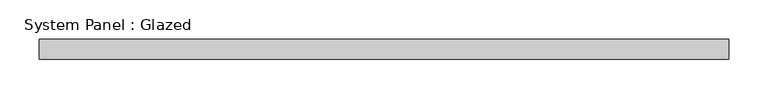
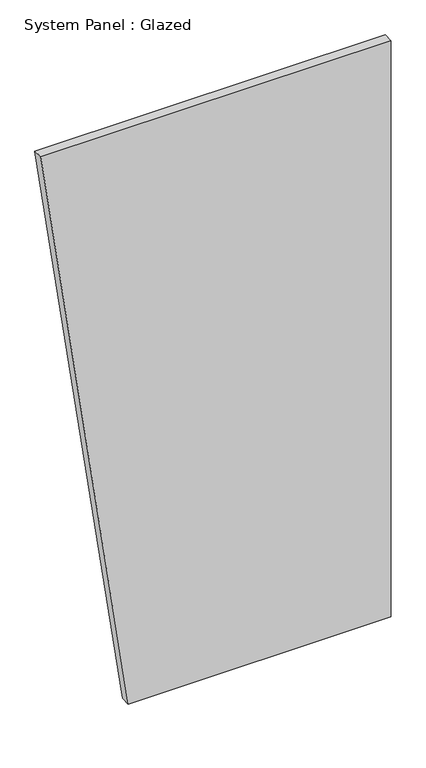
"""IFC4 building model written with IfcOpenShell, lengths in millimetres: plate geometry, System Panel : Glazed."""

from ifc_helpers import new_model, si_unit, frame, origin, place, context, project, spatial, polyline, outline, extrude, source, transform, mapped, element, save


def system_panel_glazed_ce6372bf(model_context):
    return source(origin(), model_context, "Body", "SweptSolid", [
        extrude(outline(polyline([(0.0, -219.2805757), (0.0, 438.5611512), (1524.0, 438.5611512), (1524.0, -438.5611512), (0.0, -219.2805757)])), frame((0.0, 19.05, 0.0), z_axis=(0.0, 1.0, 0.0), x_axis=(0.0, 0.0, 1.0)), (0.0, 0.0, 1.0), 25.4),
    ])


if __name__ == "__main__":
    model = new_model("IFC4")
    model_context = context("Model", 3, world=origin())
    ifc_project = project(units=[si_unit("LENGTHUNIT", "METRE", prefix="MILLI")], contexts=[model_context])
    site = spatial("IfcSite", under=ifc_project)
    building = spatial("IfcBuilding", under=site)
    placement = place(None, origin())
    system_panel_glazed_shape = system_panel_glazed_ce6372bf(model_context)
    element("IfcPlate", 1, ObjectType="System Panel : Glazed", at=placement, inside=building, context=model_context, shape_type="MappedRepresentation", body=[
        mapped(system_panel_glazed_shape, transform((0.0, 0.0, 0.0), x_axis=(1.0, 0.0, 0.0), y_axis=(0.0, 1.0, 0.0), z_axis=(0.0, 0.0, 1.0))),
    ])
    save(model, "model.ifc")
